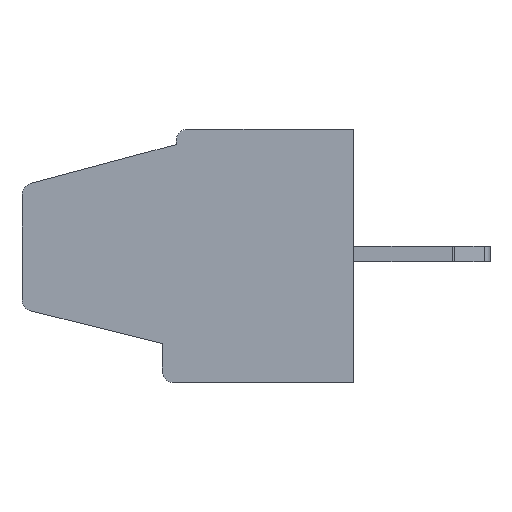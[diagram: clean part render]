
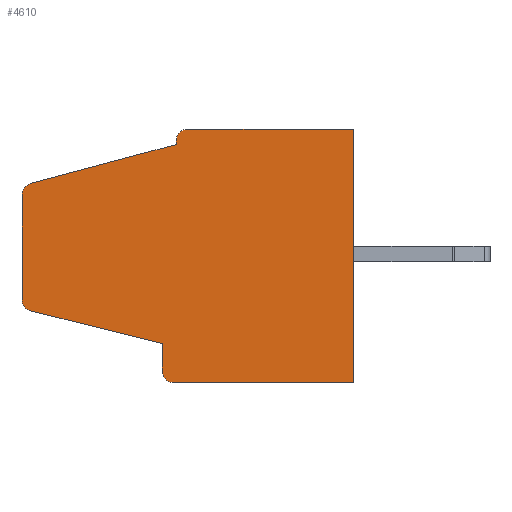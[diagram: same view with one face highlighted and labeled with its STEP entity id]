
A CAD part, left-side view. The second image highlights one B-rep face of the part: STEP entity #4610.
In plain terms, the highlighted planar face has unit normal (-1, 0, 0).
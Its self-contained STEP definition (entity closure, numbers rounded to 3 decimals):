
#1=CARTESIAN_POINT('',(0.,8.1,-6.2));
#2=DIRECTION('',(1.,0.,0.));
#3=DIRECTION('',(0.,0.,-1.));
#4=AXIS2_PLACEMENT_3D('',#1,#2,#3);
#6=DIRECTION('',(0.,0.97,0.242));
#7=VECTOR('',#6,3.476);
#8=CARTESIAN_POINT('',(0.,8.4,-5.498));
#9=LINE('',#8,#7);
#10=CARTESIAN_POINT('',(0.,11.7,-4.366));
#11=DIRECTION('',(1.,0.,0.));
#12=DIRECTION('',(0.,0.242,-0.97));
#13=AXIS2_PLACEMENT_3D('',#10,#11,#12);
#15=CARTESIAN_POINT('',(0.,11.7,-1.68));
#16=DIRECTION('',(1.,0.,0.));
#17=DIRECTION('',(0.,1.,0.));
#18=AXIS2_PLACEMENT_3D('',#15,#16,#17);
#20=DIRECTION('',(0.,-0.966,0.259));
#21=VECTOR('',#20,3.859);
#22=CARTESIAN_POINT('',(0.,11.778,-1.39));
#23=LINE('',#22,#21);
#24=CARTESIAN_POINT('',(0.,7.75,-0.3));
#25=DIRECTION('',(1.,0.,0.));
#26=DIRECTION('',(0.,1.,0.));
#27=AXIS2_PLACEMENT_3D('',#24,#25,#26);
#61=DIRECTION('',(0.,-1.,0.));
#62=VECTOR('',#61,4.6);
#63=CARTESIAN_POINT('',(0.,8.1,-6.5));
#64=LINE('',#63,#62);
#73=DIRECTION('',(0.,0.,1.));
#74=VECTOR('',#73,6.5);
#75=CARTESIAN_POINT('',(0.,3.5,-6.5));
#76=LINE('',#75,#74);
#197=DIRECTION('',(0.,1.,0.));
#198=VECTOR('',#197,4.25);
#199=CARTESIAN_POINT('',(0.,3.5,0.));
#200=LINE('',#199,#198);
#233=DIRECTION('',(0.,0.,-1.));
#234=VECTOR('',#233,0.092);
#235=CARTESIAN_POINT('',(0.,8.05,-0.3));
#236=LINE('',#235,#234);
#249=DIRECTION('',(0.,0.,-1.));
#250=VECTOR('',#249,2.685);
#251=CARTESIAN_POINT('',(0.,12.,-1.68));
#252=LINE('',#251,#250);
#2075=DIRECTION('',(0.,0.,-1.));
#2076=VECTOR('',#2075,0.702);
#2077=CARTESIAN_POINT('',(0.,8.4,-5.498));
#2078=LINE('',#2077,#2076);
#3630=CARTESIAN_POINT('',(0.,8.1,-6.5));
#3631=CARTESIAN_POINT('',(0.,8.4,-6.2));
#3632=VERTEX_POINT('',#3630);
#3633=VERTEX_POINT('',#3631);
#3634=CARTESIAN_POINT('',(0.,8.4,-5.498));
#3635=VERTEX_POINT('',#3634);
#3636=CARTESIAN_POINT('',(0.,11.773,-4.657));
#3637=VERTEX_POINT('',#3636);
#3638=CARTESIAN_POINT('',(0.,12.,-4.366));
#3639=VERTEX_POINT('',#3638);
#3640=CARTESIAN_POINT('',(0.,12.,-1.68));
#3641=VERTEX_POINT('',#3640);
#3642=CARTESIAN_POINT('',(0.,11.778,-1.39));
#3643=VERTEX_POINT('',#3642);
#3644=CARTESIAN_POINT('',(0.,8.05,-0.392));
#3645=VERTEX_POINT('',#3644);
#3646=CARTESIAN_POINT('',(0.,8.05,-0.3));
#3647=VERTEX_POINT('',#3646);
#3648=CARTESIAN_POINT('',(0.,7.75,0.));
#3649=VERTEX_POINT('',#3648);
#3650=CARTESIAN_POINT('',(0.,3.5,0.));
#3651=VERTEX_POINT('',#3650);
#3652=CARTESIAN_POINT('',(0.,3.5,-6.5));
#3653=VERTEX_POINT('',#3652);
#4579=CARTESIAN_POINT('',(0.,3.5,0.));
#4580=DIRECTION('',(1.,0.,0.));
#4581=DIRECTION('',(0.,-1.,0.));
#4582=AXIS2_PLACEMENT_3D('',#4579,#4580,#4581);
#4583=PLANE('',#4582);
#4585=ORIENTED_EDGE('',*,*,#4584,.T.);
#4587=ORIENTED_EDGE('',*,*,#4586,.F.);
#4589=ORIENTED_EDGE('',*,*,#4588,.T.);
#4591=ORIENTED_EDGE('',*,*,#4590,.T.);
#4593=ORIENTED_EDGE('',*,*,#4592,.F.);
#4595=ORIENTED_EDGE('',*,*,#4594,.T.);
#4597=ORIENTED_EDGE('',*,*,#4596,.T.);
#4599=ORIENTED_EDGE('',*,*,#4598,.F.);
#4601=ORIENTED_EDGE('',*,*,#4600,.T.);
#4603=ORIENTED_EDGE('',*,*,#4602,.F.);
#4605=ORIENTED_EDGE('',*,*,#4604,.F.);
#4607=ORIENTED_EDGE('',*,*,#4606,.F.);
#4608=EDGE_LOOP('',(#4585,#4587,#4589,#4591,#4593,#4595,#4597,#4599,#4601,#4603,
#4605,#4607));
#4609=FACE_OUTER_BOUND('',#4608,.F.);
#4610=ADVANCED_FACE('',(#4609),#4583,.F.);
#5=CIRCLE('',#4,0.3);
#14=CIRCLE('',#13,0.3);
#19=CIRCLE('',#18,0.3);
#28=CIRCLE('',#27,0.3);
#4584=EDGE_CURVE('',#3632,#3633,#5,.T.);
#4586=EDGE_CURVE('',#3635,#3633,#2078,.T.);
#4588=EDGE_CURVE('',#3635,#3637,#9,.T.);
#4590=EDGE_CURVE('',#3637,#3639,#14,.T.);
#4592=EDGE_CURVE('',#3641,#3639,#252,.T.);
#4594=EDGE_CURVE('',#3641,#3643,#19,.T.);
#4596=EDGE_CURVE('',#3643,#3645,#23,.T.);
#4598=EDGE_CURVE('',#3647,#3645,#236,.T.);
#4600=EDGE_CURVE('',#3647,#3649,#28,.T.);
#4602=EDGE_CURVE('',#3651,#3649,#200,.T.);
#4604=EDGE_CURVE('',#3653,#3651,#76,.T.);
#4606=EDGE_CURVE('',#3632,#3653,#64,.T.);
